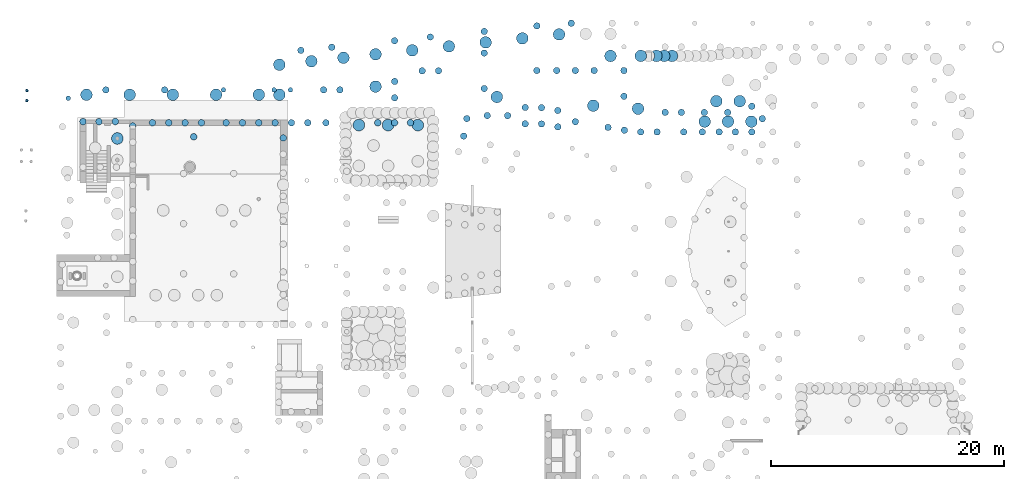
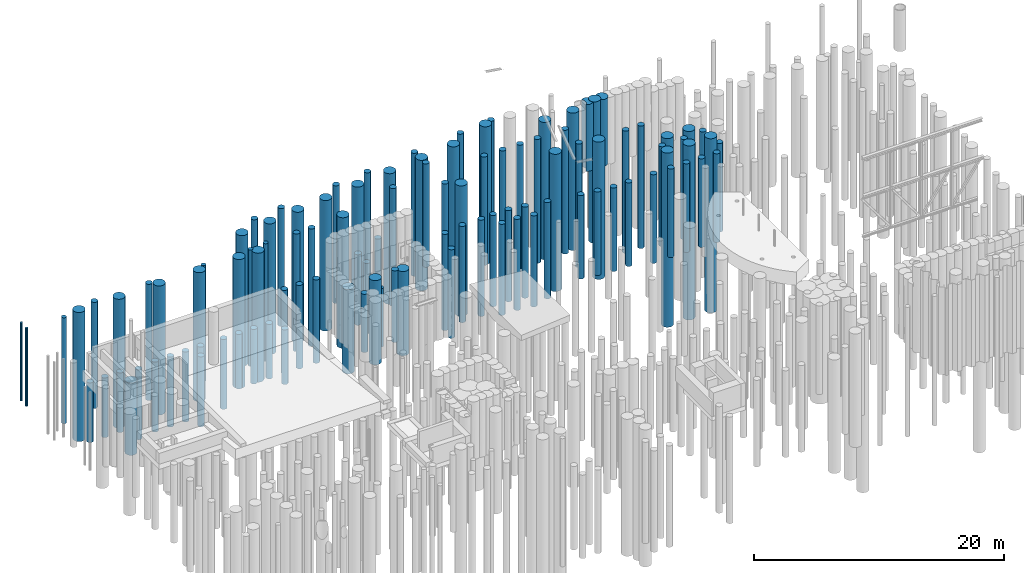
# One storey, part 4 of 104: 108 piles.
"""IFC2X3 building model written with IfcOpenShell, lengths in millimetres."""

from ifc_helpers import new_model, entity, si_unit, converted_unit, derived_unit, direction, frame, frame_2d, origin, origin_2d_with_axis, place, context, subcontext, project, spatial, circle_curve, parameter, trimmed, segment, composite_curve, circle, outline, extrude, source, transform, mapped, material, element, save


model = new_model("IFC2X3")

# Units and contexts
model_context = context("Model", 3, precision=0.01, world=origin(), true_north=direction((6.12303176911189e-17, 1.0)))
body_context = subcontext(model_context, "Body", "Model", "MODEL_VIEW")
ifc_project = project(units=[si_unit("LENGTHUNIT", "METRE", prefix="MILLI"), si_unit("AREAUNIT", "SQUARE_METRE", prefix="MILLI"), si_unit("VOLUMEUNIT", "CUBIC_METRE"), converted_unit("PLANEANGLEUNIT", "DEGREE", entity("IfcRatioMeasure", 0.0174532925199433), si_unit("PLANEANGLEUNIT", "RADIAN"), dimensions=[0, 0, 0, 0, 0, 0, 0]), si_unit("MASSUNIT", "GRAM", prefix="KILO"), derived_unit("MASSDENSITYUNIT", [(si_unit("MASSUNIT", "GRAM", prefix="KILO"), 1), (si_unit("LENGTHUNIT", "METRE"), -3)]), derived_unit("MOMENTOFINERTIAUNIT", [(si_unit("LENGTHUNIT", "METRE"), 4)]), si_unit("TIMEUNIT", "SECOND"), si_unit("FREQUENCYUNIT", "HERTZ"), si_unit("THERMODYNAMICTEMPERATUREUNIT", "DEGREE_CELSIUS"), derived_unit("THERMALTRANSMITTANCEUNIT", [(si_unit("MASSUNIT", "GRAM", prefix="KILO"), 1), (si_unit("THERMODYNAMICTEMPERATUREUNIT", "KELVIN"), -1), (si_unit("TIMEUNIT", "SECOND"), -3)]), derived_unit("VOLUMETRICFLOWRATEUNIT", [(si_unit("LENGTHUNIT", "METRE"), 3), (si_unit("TIMEUNIT", "SECOND"), -1)]), si_unit("ELECTRICCURRENTUNIT", "AMPERE"), si_unit("ELECTRICVOLTAGEUNIT", "VOLT"), si_unit("POWERUNIT", "WATT"), si_unit("FORCEUNIT", "NEWTON", prefix="KILO"), si_unit("ILLUMINANCEUNIT", "LUX"), si_unit("LUMINOUSFLUXUNIT", "LUMEN"), si_unit("LUMINOUSINTENSITYUNIT", "CANDELA"), derived_unit("USERDEFINED", [(si_unit("MASSUNIT", "GRAM", prefix="KILO"), -1), (si_unit("LENGTHUNIT", "METRE"), -2), (si_unit("TIMEUNIT", "SECOND"), 3), (si_unit("LUMINOUSFLUXUNIT", "LUMEN"), 1)]), derived_unit("LINEARVELOCITYUNIT", [(si_unit("LENGTHUNIT", "METRE"), 1), (si_unit("TIMEUNIT", "SECOND"), -1)]), si_unit("PRESSUREUNIT", "PASCAL"), derived_unit("USERDEFINED", [(si_unit("LENGTHUNIT", "METRE"), -2), (si_unit("MASSUNIT", "GRAM", prefix="KILO"), 1), (si_unit("TIMEUNIT", "SECOND"), -2)]), derived_unit("LINEARFORCEUNIT", [(si_unit("MASSUNIT", "GRAM", prefix="KILO"), 1), (si_unit("LENGTHUNIT", "METRE"), 1), (si_unit("TIMEUNIT", "SECOND"), -2), (si_unit("LENGTHUNIT", "METRE"), -1)]), derived_unit("PLANARFORCEUNIT", [(si_unit("MASSUNIT", "GRAM", prefix="KILO"), 1), (si_unit("LENGTHUNIT", "METRE"), 1), (si_unit("TIMEUNIT", "SECOND"), -2), (si_unit("LENGTHUNIT", "METRE"), -2)])], contexts=[model_context])

# Site, building, storey
site_placement = place(None, origin())
site = spatial("IfcSite", under=ifc_project, at=site_placement, Name="Theater aan de Parade", CompositionType="ELEMENT")
building_placement = place(site_placement, origin())
building = spatial("IfcBuilding", under=site, at=building_placement, Name="Theater aan de Parade", CompositionType="ELEMENT")
storey_placement = place(building_placement, frame((0.0, 0.0, -5520.0)))
storey = spatial("IfcBuildingStorey", under=building, at=storey_placement, Name="-2 kelder", CompositionType="ELEMENT", Elevation=-5520.0)

# Piles
ifc_material_1 = material(Name="<Unnamed>")
shared_shape_1 = source(origin(), body_context, "Body", "SweptSolid", [
    extrude(circle(Radius=200.0, at=frame_2d((1.69197988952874e-14, -3.02923644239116e-13), x_axis=(1.0, 0.0))), frame((0.0, 0.0, -11360.0)), (0.0, 0.0, 1.0), 10340.0),
])
pile_1_placement = place(storey_placement, frame((11000.0, 45550.0, 5520.0)))
element("IfcPile", 1, at=pile_1_placement, inside=storey, material=ifc_material_1, Name="17_PBT_SFO_paal_rond:Ø400 (betonpaal)_bestaand", ObjectType="17_PBT_SFO_paal_rond:Ø400 (betonpaal)_bestaand", PredefinedType="NOTDEFINED", context=body_context, shape_type="MappedRepresentation", body=[
    mapped(shared_shape_1, transform((0.0, 0.0, 0.0), scale=1.0)),
])
shared_shape_2 = source(origin(), body_context, "Body", "SweptSolid", [
    extrude(circle(Radius=280.0, at=frame_2d((-1.47690177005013e-29, -4.61316659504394e-13), x_axis=(1.0, 0.0))), frame((0.0, 0.0, -12360.0)), (0.0, 0.0, 1.0), 5819.99999999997),
])
for number, where in (
    (2, (12260.0, 43550.0, 5520.0)),
    (3, (13630.0, 43550.0, 5520.0)),
    (4, (15030.0, 43550.0, 5520.0)),
):
    element("IfcPile", number, at=place(storey_placement, frame(where)), inside=storey, material=ifc_material_1, Name="17_PBT_SFO_paal_rond:Ø560 (betonpaal)_bestaand", ObjectType="17_PBT_SFO_paal_rond:Ø560 (betonpaal)_bestaand", PredefinedType="NOTDEFINED", context=body_context, shape_type="MappedRepresentation", body=[
        mapped(shared_shape_2, transform((0.0, 0.0, 0.0), scale=1.0)),
    ])
shared_shape_3 = source(origin(), body_context, "Body", "SweptSolid", [
    extrude(circle(Radius=280.0, at=frame_2d((1.69197988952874e-14, -4.61316659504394e-13), x_axis=(1.0, 0.0))), frame((0.0, 0.0, -13360.0)), (0.0, 0.0, 1.0), 6819.99999999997),
])
for number, where in (
    (5, (16525.0, 43180.0, 5520.0)),
    (6, (18205.0, 43450.0, 5520.0)),
    (7, (19605.0, 43450.0, 5520.0)),
    (8, (21005.0, 43450.0, 5520.0)),
    (9, (22405.0, 43450.0, 5520.0)),
    (10, (24525.0, 43450.0, 5520.0)),
    (11, (21745.0, 42250.0, 5520.0)),
):
    element("IfcPile", number, at=place(storey_placement, frame(where)), inside=storey, material=ifc_material_1, Name="17_PBT_SFO_paal_rond:Ø560 (betonpaal)_bestaand", ObjectType="17_PBT_SFO_paal_rond:Ø560 (betonpaal)_bestaand", PredefinedType="NOTDEFINED", context=body_context, shape_type="MappedRepresentation", body=[
        mapped(shared_shape_3, transform((0.0, 0.0, 0.0), scale=1.0)),
    ])
shared_shape_4 = source(origin(), body_context, "Body", "SweptSolid", [
    extrude(circle(Radius=280.0, at=frame_2d((1.69197988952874e-14, -4.61316659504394e-13), x_axis=(1.0, 0.0))), frame((0.0, 0.0, -11860.0)), (0.0, 0.0, 1.0), 8139.99999999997),
])
for number, where in (
    (12, (30125.0, 43450.0, 5520.0)),
    (13, (31525.0, 43450.0, 5520.0)),
    (14, (33075.0, 43450.0, 5520.0)),
    (15, (61450.0, 42660.0, 5520.0)),
    (16, (60050.0, 42660.0, 5520.0)),
    (17, (58650.0, 42810.0, 5520.0)),
    (18, (57250.0, 43048.0, 5520.0)),
):
    element("IfcPile", number, at=place(storey_placement, frame(where)), inside=storey, material=ifc_material_1, Name="17_PBT_SFO_paal_rond:Ø560 (betonpaal)_bestaand", ObjectType="17_PBT_SFO_paal_rond:Ø560 (betonpaal)_bestaand", PredefinedType="NOTDEFINED", context=body_context, shape_type="MappedRepresentation", body=[
        mapped(shared_shape_4, transform((0.0, 0.0, 0.0), scale=1.0)),
    ])
shared_shape_5 = source(origin(), body_context, "Body", "SweptSolid", [
    extrude(circle(Radius=280.0, at=frame_2d((1.69197988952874e-14, -4.61316659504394e-13), x_axis=(1.0, 0.0))), frame((0.0, 0.0, -11860.0)), (0.0, 0.0, 1.0), 5319.99999999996),
])
for number, where in (
    (19, (25925.0, 43450.0, 5520.0)),
    (20, (27325.0, 43450.0, 5520.0)),
    (21, (28725.0, 43450.0, 5520.0)),
    (22, (29425.0, 42150.0, 5520.0)),
):
    element("IfcPile", number, at=place(storey_placement, frame(where)), inside=storey, material=ifc_material_1, Name="17_PBT_SFO_paal_rond:Ø560 (betonpaal)_bestaand", ObjectType="17_PBT_SFO_paal_rond:Ø560 (betonpaal)_bestaand", PredefinedType="NOTDEFINED", context=body_context, shape_type="MappedRepresentation", body=[
        mapped(shared_shape_5, transform((0.0, 0.0, 0.0), scale=1.0)),
    ])
shared_shape_6 = source(origin(), body_context, "Body", "SweptSolid", [
    extrude(circle(Radius=280.0, at=frame_2d((1.69197988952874e-14, -4.61316659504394e-13), x_axis=(1.0, 0.0))), frame((0.0, 0.0, -12360.0)), (0.0, 0.0, 1.0), 8639.99999999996),
])
for number, where in (
    (23, (69570.0, 42660.0, 5520.0)),
    (24, (70470.0, 43800.0, 5520.0)),
    (25, (68170.0, 42660.0, 5520.0)),
    (26, (66770.0, 42660.0, 5520.0)),
    (27, (65330.0, 42660.0, 5520.0)),
    (28, (63730.0, 42660.0, 5520.0)),
):
    element("IfcPile", number, at=place(storey_placement, frame(where)), inside=storey, material=ifc_material_1, Name="17_PBT_SFO_paal_rond:Ø560 (betonpaal)_bestaand", ObjectType="17_PBT_SFO_paal_rond:Ø560 (betonpaal)_bestaand", PredefinedType="NOTDEFINED", context=body_context, shape_type="MappedRepresentation", body=[
        mapped(shared_shape_6, transform((0.0, 0.0, 0.0), scale=1.0)),
    ])
shared_shape_7 = source(origin(), body_context, "Body", "SweptSolid", [
    extrude(circle(Radius=280.0, at=frame_2d((1.69197988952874e-14, -4.61316659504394e-13), x_axis=(1.0, 0.0))), frame((0.0, 0.0, -11360.0)), (0.0, 0.0, 1.0), 10340.0),
])
pile_2_placement = place(storey_placement, frame((14220.0, 46265.0, 5520.0)))
element("IfcPile", 29, at=pile_2_placement, inside=storey, material=ifc_material_1, Name="17_PBT_SFO_paal_rond:Ø560 (betonpaal)_bestaand", ObjectType="17_PBT_SFO_paal_rond:Ø560 (betonpaal)_bestaand", PredefinedType="NOTDEFINED", context=body_context, shape_type="MappedRepresentation", body=[
    mapped(shared_shape_7, transform((0.0, 0.0, 0.0), scale=1.0)),
])
shared_shape_8 = source(origin(), body_context, "Body", "SweptSolid", [
    extrude(circle(Radius=280.0, at=frame_2d((1.69197988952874e-14, -4.61316659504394e-13), x_axis=(1.0, 0.0))), frame((0.0, 0.0, -12360.0)), (0.0, 0.0, 1.0), 11340.0),
])
pile_3_placement = place(storey_placement, frame((19255.0, 46265.0, 5520.0)))
element("IfcPile", 30, at=pile_3_placement, inside=storey, material=ifc_material_1, Name="17_PBT_SFO_paal_rond:Ø560 (betonpaal)_bestaand", ObjectType="17_PBT_SFO_paal_rond:Ø560 (betonpaal)_bestaand", PredefinedType="NOTDEFINED", context=body_context, shape_type="MappedRepresentation", body=[
    mapped(shared_shape_8, transform((0.0, 0.0, 0.0), scale=1.0)),
])
shared_shape_9 = source(origin(), body_context, "Body", "SweptSolid", [
    extrude(circle(Radius=200.0, at=frame_2d((1.69197988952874e-14, -3.02923644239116e-13), x_axis=(1.0, 0.0))), frame((0.0, 0.0, -12360.0)), (0.0, 0.0, 1.0), 11470.0),
])
pile_4_placement = place(storey_placement, frame((30035.0, 46265.0, 5520.0)))
element("IfcPile", 31, at=pile_4_placement, inside=storey, material=ifc_material_1, Name="17_PBT_SFO_paal_rond:Ø400 (betonpaal)_bestaand", ObjectType="17_PBT_SFO_paal_rond:Ø400 (betonpaal)_bestaand", PredefinedType="NOTDEFINED", context=body_context, shape_type="MappedRepresentation", body=[
    mapped(shared_shape_9, transform((0.0, 0.0, 0.0), scale=1.0)),
])
shared_shape_10 = source(origin(), body_context, "Body", "SweptSolid", [
    extrude(circle(Radius=200.0, at=frame_2d((1.69197988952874e-14, -3.02923644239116e-13), x_axis=(1.0, 0.0))), frame((0.0, 0.0, -12360.0)), (0.0, 0.0, 1.0), 11340.0),
])
for number, where in (
    (32, (24295.0, 46265.0, 5520.0)),
    (33, (28635.0, 46265.0, 5520.0)),
):
    element("IfcPile", number, at=place(storey_placement, frame(where)), inside=storey, material=ifc_material_1, Name="17_PBT_SFO_paal_rond:Ø400 (betonpaal)_bestaand", ObjectType="17_PBT_SFO_paal_rond:Ø400 (betonpaal)_bestaand", PredefinedType="NOTDEFINED", context=body_context, shape_type="MappedRepresentation", body=[
        mapped(shared_shape_10, transform((0.0, 0.0, 0.0), scale=1.0)),
    ])
shared_shape_11 = source(origin(), body_context, "Body", "SweptSolid", [
    extrude(circle(Radius=280.0, at=frame_2d((1.69197988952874e-14, -4.61316659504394e-13), x_axis=(1.0, 0.0))), frame((0.0, 0.0, -12360.0)), (0.0, 0.0, 1.0), 11470.0),
])
for number, where in (
    (34, (32875.0, 46265.0, 5520.0)),
    (35, (34275.0, 46265.0, 5520.0)),
    (36, (42725.0, 47900.0, 5520.0)),
):
    element("IfcPile", number, at=place(storey_placement, frame(where)), inside=storey, material=ifc_material_1, Name="17_PBT_SFO_paal_rond:Ø560 (betonpaal)_bestaand", ObjectType="17_PBT_SFO_paal_rond:Ø560 (betonpaal)_bestaand", PredefinedType="NOTDEFINED", context=body_context, shape_type="MappedRepresentation", body=[
        mapped(shared_shape_11, transform((0.0, 0.0, 0.0), scale=1.0)),
    ])
shared_shape_12 = source(origin(), body_context, "Body", "SweptSolid", [
    extrude(circle(Radius=280.0, at=frame_2d((1.69197988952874e-14, -4.61316659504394e-13), x_axis=(1.0, 0.0))), frame((0.0, 0.0, -12360.0)), (0.0, 0.0, 1.0), 6879.99999999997),
])
for number, where in (
    (37, (38965.0, 45590.0, 5520.0)),
    (38, (38965.0, 46990.0, 5520.0)),
):
    element("IfcPile", number, at=place(storey_placement, frame(where)), inside=storey, material=ifc_material_1, Name="17_PBT_SFO_paal_rond:Ø560 (betonpaal)_bestaand", ObjectType="17_PBT_SFO_paal_rond:Ø560 (betonpaal)_bestaand", PredefinedType="NOTDEFINED", context=body_context, shape_type="MappedRepresentation", body=[
        mapped(shared_shape_12, transform((0.0, 0.0, 0.0), scale=1.0)),
    ])
shared_shape_13 = source(origin(), body_context, "Body", "SweptSolid", [
    extrude(circle(Radius=280.0, at=frame_2d((-1.69197988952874e-14, -5.23489148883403e-13), x_axis=(1.0, 0.0))), frame((0.0, 0.0, -12360.0)), (0.0, 0.0, 1.0), 5679.99999999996),
])
for number, where in (
    (39, (38965.0, 43450.0, 5520.0)),
    (40, (37525.0, 43450.0, 5520.0)),
):
    element("IfcPile", number, at=place(storey_placement, frame(where)), inside=storey, material=ifc_material_1, Name="17_PBT_SFO_paal_rond:Ø560 (betonpaal)_bestaand", ObjectType="17_PBT_SFO_paal_rond:Ø560 (betonpaal)_bestaand", PredefinedType="NOTDEFINED", context=body_context, shape_type="MappedRepresentation", body=[
        mapped(shared_shape_13, transform((0.0, 0.0, 0.0), scale=1.0)),
    ])
shared_shape_14 = source(origin(), body_context, "Body", "SweptSolid", [
    extrude(circle(Radius=280.0, at=frame_2d((1.69197988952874e-14, -4.61316659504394e-13), x_axis=(1.0, 0.0))), frame((0.0, 0.0, -12360.0)), (0.0, 0.0, 1.0), 6979.99999999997),
])
pile_5_placement = place(storey_placement, frame((40325.0, 43450.0, 5520.0)))
element("IfcPile", 41, at=pile_5_placement, inside=storey, material=ifc_material_1, Name="17_PBT_SFO_paal_rond:Ø560 (betonpaal)_bestaand", ObjectType="17_PBT_SFO_paal_rond:Ø560 (betonpaal)_bestaand", PredefinedType="NOTDEFINED", context=body_context, shape_type="MappedRepresentation", body=[
    mapped(shared_shape_14, transform((0.0, 0.0, 0.0), scale=1.0)),
])
shared_shape_15 = source(origin(), body_context, "Body", "SweptSolid", [
    extrude(circle(Radius=280.0, at=frame_2d((1.69197988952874e-14, -4.61316659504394e-13), x_axis=(1.0, 0.0))), frame((0.0, 0.0, -12860.0)), (0.0, 0.0, 1.0), 8639.99999999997),
])
pile_6_placement = place(storey_placement, frame((44880.0, 42307.0, 5520.0)))
element("IfcPile", 42, at=pile_6_placement, inside=storey, material=ifc_material_1, Name="17_PBT_SFO_paal_rond:Ø560 (betonpaal)_bestaand", ObjectType="17_PBT_SFO_paal_rond:Ø560 (betonpaal)_bestaand", PredefinedType="NOTDEFINED", context=body_context, shape_type="MappedRepresentation", body=[
    mapped(shared_shape_15, transform((0.0, 0.0, 0.0), scale=1.0)),
])
shared_shape_16 = source(origin(), body_context, "Body", "SweptSolid", [
    extrude(circle(Radius=280.0, at=frame_2d((1.69197988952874e-14, -4.61316659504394e-13), x_axis=(1.0, 0.0))), frame((0.0, 0.0, -12360.0)), (0.0, 0.0, 1.0), 11490.0),
])
for number, where in (
    (43, (30935.0, 49647.3468664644, 5520.0)),
    (44, (33575.0, 49921.4356910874, 5520.0)),
    (45, (38965.0, 50476.8808470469, 5520.0)),
    (46, (42025.0, 50798.72757293, 5520.0)),
):
    element("IfcPile", number, at=place(storey_placement, frame(where)), inside=storey, material=ifc_material_1, Name="17_PBT_SFO_paal_rond:Ø560 (betonpaal)_bestaand", ObjectType="17_PBT_SFO_paal_rond:Ø560 (betonpaal)_bestaand", PredefinedType="NOTDEFINED", context=body_context, shape_type="MappedRepresentation", body=[
        mapped(shared_shape_16, transform((0.0, 0.0, 0.0), scale=1.0)),
    ])
shared_shape_17 = source(origin(), body_context, "Body", "SweptSolid", [
    extrude(circle(Radius=280.0, at=frame_2d((1.69197988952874e-14, -4.61316659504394e-13), x_axis=(1.0, 0.0))), frame((0.0, 0.0, -12860.0)), (0.0, 0.0, 1.0), 11990.0),
])
for number, where in (
    (47, (46640.0, 51277.8639083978, 5520.0)),
    (48, (51155.0, 51746.6180914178, 5520.0)),
):
    element("IfcPile", number, at=place(storey_placement, frame(where)), inside=storey, material=ifc_material_1, Name="17_PBT_SFO_paal_rond:Ø560 (betonpaal)_bestaand", ObjectType="17_PBT_SFO_paal_rond:Ø560 (betonpaal)_bestaand", PredefinedType="NOTDEFINED", context=body_context, shape_type="MappedRepresentation", body=[
        mapped(shared_shape_17, transform((0.0, 0.0, 0.0), scale=1.0)),
    ])
shared_shape_18 = source(origin(), body_context, "Body", "SweptSolid", [
    extrude(circle(Radius=280.0, at=frame_2d((1.69197988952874e-14, -4.61316659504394e-13), x_axis=(1.0, 0.0))), frame((0.0, 0.0, -12860.0)), (0.0, 0.0, 1.0), 12080.0),
])
for number, where in (
    (49, (54105.0, 51975.0, 5520.0)),
    (50, (54455.0, 47925.0, 5520.0)),
    (51, (56055.0, 47925.0, 5520.0)),
    (52, (58615.0, 47925.0, 5520.0)),
    (53, (58615.0, 45714.0, 5520.0)),
):
    element("IfcPile", number, at=place(storey_placement, frame(where)), inside=storey, material=ifc_material_1, Name="17_PBT_SFO_paal_rond:Ø560 (betonpaal)_bestaand", ObjectType="17_PBT_SFO_paal_rond:Ø560 (betonpaal)_bestaand", PredefinedType="NOTDEFINED", context=body_context, shape_type="MappedRepresentation", body=[
        mapped(shared_shape_18, transform((0.0, 0.0, 0.0), scale=1.0)),
    ])
shared_shape_19 = source(origin(), body_context, "Body", "SweptSolid", [
    extrude(circle(Radius=280.0, at=frame_2d((1.69197988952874e-14, -4.61316659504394e-13), x_axis=(1.0, 0.0))), frame((0.0, 0.0, -12360.0)), (0.0, 0.0, 1.0), 7029.99999999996),
])
pile_7_placement = place(storey_placement, frame((41325.0, 47900.0, 5520.0)))
element("IfcPile", 54, at=pile_7_placement, inside=storey, material=ifc_material_1, Name="17_PBT_SFO_paal_rond:Ø560 (betonpaal)_bestaand", ObjectType="17_PBT_SFO_paal_rond:Ø560 (betonpaal)_bestaand", PredefinedType="NOTDEFINED", context=body_context, shape_type="MappedRepresentation", body=[
    mapped(shared_shape_19, transform((0.0, 0.0, 0.0), scale=1.0)),
])
shared_shape_20 = source(origin(), body_context, "Body", "SweptSolid", [
    extrude(circle(Radius=280.0, at=frame_2d((1.69197988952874e-14, -4.61316659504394e-13), x_axis=(1.0, 0.0))), frame((0.0, 0.0, -10860.0)), (0.0, 0.0, 1.0), 10080.0),
])
pile_8_placement = place(storey_placement, frame((46640.0, 49420.0, 5520.0)))
element("IfcPile", 55, at=pile_8_placement, inside=storey, material=ifc_material_1, Name="17_PBT_SFO_paal_rond:Ø560 (betonpaal)_bestaand", ObjectType="17_PBT_SFO_paal_rond:Ø560 (betonpaal)_bestaand", PredefinedType="NOTDEFINED", context=body_context, shape_type="MappedRepresentation", body=[
    mapped(shared_shape_20, transform((0.0, 0.0, 0.0), scale=1.0)),
])
shared_shape_21 = source(origin(), body_context, "Body", "SweptSolid", [
    extrude(circle(Radius=280.0, at=frame_2d((1.69197988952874e-14, -4.61316659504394e-13), x_axis=(1.0, 0.0))), frame((0.0, 0.0, -10860.0)), (0.0, 0.0, 1.0), 9969.99999999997),
])
pile_9_placement = place(storey_placement, frame((46640.0, 46380.0, 5520.0)))
element("IfcPile", 56, at=pile_9_placement, inside=storey, material=ifc_material_1, Name="17_PBT_SFO_paal_rond:Ø560 (betonpaal)_bestaand", ObjectType="17_PBT_SFO_paal_rond:Ø560 (betonpaal)_bestaand", PredefinedType="NOTDEFINED", context=body_context, shape_type="MappedRepresentation", body=[
    mapped(shared_shape_21, transform((0.0, 0.0, 0.0), scale=1.0)),
])
shared_shape_22 = source(origin(), body_context, "Body", "SweptSolid", [
    extrude(circle(Radius=280.0, at=frame_2d((1.69197988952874e-14, -4.61316659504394e-13), x_axis=(1.0, 0.0))), frame((0.0, 0.0, -11360.0)), (0.0, 0.0, 1.0), 10580.0),
])
for number, where in (
    (57, (51155.0, 47925.0, 5520.0)),
    (58, (52855.0, 47925.0, 5520.0)),
):
    element("IfcPile", number, at=place(storey_placement, frame(where)), inside=storey, material=ifc_material_1, Name="17_PBT_SFO_paal_rond:Ø560 (betonpaal)_bestaand", ObjectType="17_PBT_SFO_paal_rond:Ø560 (betonpaal)_bestaand", PredefinedType="NOTDEFINED", context=body_context, shape_type="MappedRepresentation", body=[
        mapped(shared_shape_22, transform((0.0, 0.0, 0.0), scale=1.0)),
    ])
shared_shape_23 = source(origin(), body_context, "Body", "SweptSolid", [
    extrude(circle(Radius=280.0, at=frame_2d((1.69197988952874e-14, -4.61316659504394e-13), x_axis=(1.0, 0.0))), frame((0.0, 0.0, -12360.0)), (0.0, 0.0, 1.0), 9739.99999999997),
])
for number, where in (
    (59, (67500.0, 44335.0, 5520.0)),
    (60, (65500.0, 44335.0, 5520.0)),
):
    element("IfcPile", number, at=place(storey_placement, frame(where)), inside=storey, material=ifc_material_1, Name="17_PBT_SFO_paal_rond:Ø560 (betonpaal)_bestaand", ObjectType="17_PBT_SFO_paal_rond:Ø560 (betonpaal)_bestaand", PredefinedType="NOTDEFINED", context=body_context, shape_type="MappedRepresentation", body=[
        mapped(shared_shape_23, transform((0.0, 0.0, 0.0), scale=1.0)),
    ])
shared_shape_24 = source(origin(), body_context, "Body", "SweptSolid", [
    extrude(circle(Radius=280.0, at=frame_2d((1.69197988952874e-14, -4.61316659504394e-13), x_axis=(1.0, 0.0))), frame((0.0, 0.0, -11860.0)), (0.0, 0.0, 1.0), 11940.0),
])
for number, where in (
    (61, (63540.0, 44335.0, 5520.0)),
    (62, (62140.0, 44335.0, 5520.0)),
):
    element("IfcPile", number, at=place(storey_placement, frame(where)), inside=storey, material=ifc_material_1, Name="17_PBT_SFO_paal_rond:Ø560 (betonpaal)_bestaand", ObjectType="17_PBT_SFO_paal_rond:Ø560 (betonpaal)_bestaand", PredefinedType="NOTDEFINED", context=body_context, shape_type="MappedRepresentation", body=[
        mapped(shared_shape_24, transform((0.0, 0.0, 0.0), scale=1.0)),
    ])
shared_shape_25 = source(origin(), body_context, "Body", "SweptSolid", [
    extrude(circle(Radius=280.0, at=frame_2d((1.69197988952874e-14, -4.61316659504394e-13), x_axis=(1.0, 0.0))), frame((0.0, 0.0, -13110.0)), (0.0, 0.0, 1.0), 8889.99999999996),
])
for number, where in (
    (63, (51550.0, 44746.0, 5520.0)),
    (64, (50150.0, 44760.0, 5520.0)),
    (65, (51550.0, 43346.0, 5520.0)),
    (66, (50150.0, 43360.0, 5520.0)),
    (67, (52950.0, 44501.0, 5520.0)),
    (68, (52950.0, 43101.0, 5520.0)),
):
    element("IfcPile", number, at=place(storey_placement, frame(where)), inside=storey, material=ifc_material_1, Name="17_PBT_SFO_paal_rond:Ø560 (betonpaal)_bestaand", ObjectType="17_PBT_SFO_paal_rond:Ø560 (betonpaal)_bestaand", PredefinedType="NOTDEFINED", context=body_context, shape_type="MappedRepresentation", body=[
        mapped(shared_shape_25, transform((0.0, 0.0, 0.0), scale=1.0)),
    ])
shared_shape_26 = source(origin(), body_context, "Body", "SweptSolid", [
    extrude(circle(Radius=280.0, at=frame_2d((1.69197988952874e-14, -4.61316659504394e-13), x_axis=(1.0, 0.0))), frame((0.0, 0.0, -13110.0)), (0.0, 0.0, 1.0), 9389.99999999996),
])
for number, where in (
    (69, (54450.0, 43538.0, 5520.0)),
    (70, (48650.0, 44060.0, 5520.0)),
    (71, (46900.0, 44060.0, 5520.0)),
    (72, (45150.0, 43805.0, 5520.0)),
):
    element("IfcPile", number, at=place(storey_placement, frame(where)), inside=storey, material=ifc_material_1, Name="17_PBT_SFO_paal_rond:Ø560 (betonpaal)_bestaand", ObjectType="17_PBT_SFO_paal_rond:Ø560 (betonpaal)_bestaand", PredefinedType="NOTDEFINED", context=body_context, shape_type="MappedRepresentation", body=[
        mapped(shared_shape_26, transform((0.0, 0.0, 0.0), scale=1.0)),
    ])
shared_shape_27 = source(origin(), body_context, "Body", "SweptSolid", [
    extrude(circle(Radius=280.0, at=frame_2d((1.69197988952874e-14, -4.61316659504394e-13), x_axis=(1.0, 0.0))), frame((0.0, 0.0, -12360.0)), (0.0, 0.0, 1.0), 9439.99999999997),
])
pile_10_placement = place(storey_placement, frame((69570.0, 44860.0, 5520.0)))
element("IfcPile", 73, at=pile_10_placement, inside=storey, material=ifc_material_1, Name="17_PBT_SFO_paal_rond:Ø560 (betonpaal)_bestaand", ObjectType="17_PBT_SFO_paal_rond:Ø560 (betonpaal)_bestaand", PredefinedType="NOTDEFINED", context=body_context, shape_type="MappedRepresentation", body=[
    mapped(shared_shape_27, transform((0.0, 0.0, 0.0), scale=1.0)),
])
ifc_material_2 = material(Name="00_PBT_MAT_grout")
shared_shape_28 = source(origin(), body_context, "Body", "SweptSolid", [
    extrude(circle(Radius=500.0, at=frame_2d((3.3839597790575e-14, -7.7318529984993e-13), x_axis=(1.0, 0.0))), frame((0.0, 0.0, -13610.0)), (0.0, 0.0, 1.0), 7049.99999999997),
])
pile_11_placement = place(storey_placement, frame((15203.8570025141, 42105.1913491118, 5520.0)))
element("IfcPile", 74, at=pile_11_placement, inside=storey, material=ifc_material_2, Name="17_PBT_SFO_paal_rond:Ø1000 (jetgroutpaal) binnen kelder", ObjectType="17_PBT_SFO_paal_rond:Ø1000 (jetgroutpaal) binnen kelder", PredefinedType="NOTDEFINED", context=body_context, shape_type="MappedRepresentation", body=[
    mapped(shared_shape_28, transform((0.0, 0.0, 0.0), scale=1.0)),
])
shared_shape_29 = source(origin(), body_context, "Body", "SweptSolid", [
    extrude(circle(Radius=500.0, at=frame_2d((3.3839597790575e-14, -7.7318529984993e-13), x_axis=(1.0, 0.0))), frame((0.0, 0.0, -13610.0)), (0.0, 0.0, 1.0), 12590.0),
])
for number, where in (
    (75, (12559.3126328, 45848.0, 5520.0)),
    (76, (27325.0, 45848.0, 5520.0)),
    (77, (16259.3126328, 45848.0, 5520.0)),
    (78, (19959.3126328, 45848.0, 5520.0)),
    (79, (23659.3126328, 45848.0, 5520.0)),
    (80, (29088.8975663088, 45848.0, 5520.0)),
):
    element("IfcPile", number, at=place(storey_placement, frame(where)), inside=storey, material=ifc_material_2, Name="17_PBT_SFO_paal_rond:Ø1000 (jetgroutpaal) buiten kelder", ObjectType="17_PBT_SFO_paal_rond:Ø1000 (jetgroutpaal) buiten kelder", PredefinedType="NOTDEFINED", context=body_context, shape_type="MappedRepresentation", body=[
        mapped(shared_shape_29, transform((0.0, 0.0, 0.0), scale=1.0)),
    ])
shared_shape_30 = source(origin(), body_context, "Body", "SweptSolid", [
    extrude(circle(Radius=500.0, at=frame_2d((3.3839597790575e-14, -7.7318529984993e-13), x_axis=(1.0, 0.0))), frame((0.0, 0.0, -13610.0)), (0.0, 0.0, 1.0), 8229.99999999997),
])
for number, where in (
    (81, (38403.8581300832, 43250.0, 5520.0)),
    (82, (35903.8581300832, 43250.0, 5520.0)),
    (83, (40953.8581275, 43250.0, 5520.0)),
):
    element("IfcPile", number, at=place(storey_placement, frame(where)), inside=storey, material=ifc_material_2, Name="17_PBT_SFO_paal_rond:Ø1000 (jetgroutpaal) buiten kelder", ObjectType="17_PBT_SFO_paal_rond:Ø1000 (jetgroutpaal) buiten kelder", PredefinedType="NOTDEFINED", context=body_context, shape_type="MappedRepresentation", body=[
        mapped(shared_shape_30, transform((0.0, 0.0, 0.0), scale=1.0)),
    ])
shared_shape_31 = source(origin(), body_context, "Body", "SweptSolid", [
    extrude(circle(Radius=500.0, at=frame_2d((3.3839597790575e-14, -7.7318529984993e-13), x_axis=(1.0, 0.0))), frame((0.0, 0.0, -19610.0)), (0.0, 0.0, 1.0), 16990.0),
])
for number, where in (
    (84, (67531.256100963, 43550.0, 5520.0)),
    (85, (66531.256100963, 45300.0, 5520.0)),
    (86, (68531.256100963, 45300.0, 5520.0)),
    (87, (65531.256100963, 43550.0, 5520.0)),
    (88, (69531.256100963, 43550.0, 5520.0)),
):
    element("IfcPile", number, at=place(storey_placement, frame(where)), inside=storey, material=ifc_material_2, Name="17_PBT_SFO_paal_rond:Ø1000 (jetgroutpaal) buiten kelder", ObjectType="17_PBT_SFO_paal_rond:Ø1000 (jetgroutpaal) buiten kelder", PredefinedType="NOTDEFINED", context=body_context, shape_type="MappedRepresentation", body=[
        mapped(shared_shape_31, transform((0.0, 0.0, 0.0), scale=1.0)),
    ])
shared_shape_32 = source(origin(), body_context, "Body", "SweptSolid", [
    extrude(circle(Radius=500.0, at=frame_2d((3.3839597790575e-14, -7.7318529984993e-13), x_axis=(1.0, 0.0))), frame((0.0, 0.0, -13610.0)), (0.0, 0.0, 1.0), 13390.0),
])
for number, where in (
    (89, (57462.031563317, 49176.5644848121, 5520.0)),
    (90, (60060.0, 49176.5644848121, 5520.0)),
):
    element("IfcPile", number, at=place(storey_placement, frame(where)), inside=storey, material=ifc_material_2, Name="17_PBT_SFO_paal_rond:Ø1000 (jetgroutpaal) buiten kelder", ObjectType="17_PBT_SFO_paal_rond:Ø1000 (jetgroutpaal) buiten kelder", PredefinedType="NOTDEFINED", context=body_context, shape_type="MappedRepresentation", body=[
        mapped(shared_shape_32, transform((0.0, 0.0, 0.0), scale=1.0)),
    ])
pile_12_placement = place(storey_placement, frame((53052.981802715, 51022.1210988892, 5520.0), z_axis=(0.0, 0.0, 1.0), x_axis=(0.994164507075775, 0.107874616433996, 0.0)))
element("IfcPile", 91, at=pile_12_placement, inside=storey, material=ifc_material_2, Name="17_PBT_SFO_paal_rond:Ø1000 (jetgroutpaal) buiten kelder", ObjectType="17_PBT_SFO_paal_rond:Ø1000 (jetgroutpaal) buiten kelder", PredefinedType="NOTDEFINED", context=body_context, shape_type="MappedRepresentation", body=[
    mapped(shared_shape_32, transform((0.0, 0.0, 0.0), scale=1.0)),
])
for number, where in (
    (92, (55985.2499183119, 44910.0, 5520.0)),
    (93, (59819.383973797, 44651.52654029, 5520.0)),
):
    element("IfcPile", number, at=place(storey_placement, frame(where)), inside=storey, material=ifc_material_2, Name="17_PBT_SFO_paal_rond:Ø1000 (jetgroutpaal) buiten kelder", ObjectType="17_PBT_SFO_paal_rond:Ø1000 (jetgroutpaal) buiten kelder", PredefinedType="NOTDEFINED", context=body_context, shape_type="MappedRepresentation", body=[
        mapped(shared_shape_32, transform((0.0, 0.0, 0.0), scale=1.0)),
    ])
shared_shape_33 = source(origin(), body_context, "Body", "SweptSolid", [
    extrude(circle(Radius=500.0, at=frame_2d((3.3839597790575e-14, -7.7318529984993e-13), x_axis=(1.0, 0.0))), frame((0.0, 0.0, -13610.0)), (0.0, 0.0, 1.0), 13790.0),
])
pile_13_placement = place(storey_placement, frame((62060.0, 49176.5644848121, 5520.0)))
element("IfcPile", 94, at=pile_13_placement, inside=storey, material=ifc_material_2, Name="17_PBT_SFO_paal_rond:Ø1000 (jetgroutpaal) buiten kelder", ObjectType="17_PBT_SFO_paal_rond:Ø1000 (jetgroutpaal) buiten kelder", PredefinedType="NOTDEFINED", context=body_context, shape_type="MappedRepresentation", body=[
    mapped(shared_shape_33, transform((0.0, 0.0, 0.0), scale=1.0)),
])
shared_shape_34 = source(origin(), body_context, "Body", "SweptSolid", [
    extrude(circle(Radius=500.0, at=frame_2d((3.3839597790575e-14, -7.7318529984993e-13), x_axis=(1.0, 0.0))), frame((0.0, 0.0, -13610.0)), (0.0, 0.0, 1.0), 12740.0),
])
pile_14_placement = place(storey_placement, frame((29088.8975663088, 48421.8307276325, 5520.0)))
element("IfcPile", 95, at=pile_14_placement, inside=storey, material=ifc_material_2, Name="17_PBT_SFO_paal_rond:Ø1000 (jetgroutpaal) buiten kelder", ObjectType="17_PBT_SFO_paal_rond:Ø1000 (jetgroutpaal) buiten kelder", PredefinedType="NOTDEFINED", context=body_context, shape_type="MappedRepresentation", body=[
    mapped(shared_shape_34, transform((0.0, 0.0, 0.0), scale=1.0)),
])
for number, where, z_axis, x_axis in (
    (96, (34580.6623033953, 49017.7301088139, 5520.0), (0.0, 0.0, 1.0), (0.994164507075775, 0.107874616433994, 0.0)),
    (97, (40473.4004659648, 49657.1382394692, 5520.0), (0.0, 0.0, 1.0), (0.994164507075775, 0.107874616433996, 0.0)),
):
    element("IfcPile", number, at=place(storey_placement, frame(where, z_axis=z_axis, x_axis=x_axis)), inside=storey, material=ifc_material_2, Name="17_PBT_SFO_paal_rond:Ø1000 (jetgroutpaal) buiten kelder", ObjectType="17_PBT_SFO_paal_rond:Ø1000 (jetgroutpaal) buiten kelder", PredefinedType="NOTDEFINED", context=body_context, shape_type="MappedRepresentation", body=[
        mapped(shared_shape_34, transform((0.0, 0.0, 0.0), scale=1.0)),
    ])
pile_15_placement = place(storey_placement, frame((37328.8581300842, 49315.9308276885, 5520.0)))
element("IfcPile", 98, at=pile_15_placement, inside=storey, material=ifc_material_2, Name="17_PBT_SFO_paal_rond:Ø1000 (jetgroutpaal) buiten kelder", ObjectType="17_PBT_SFO_paal_rond:Ø1000 (jetgroutpaal) buiten kelder", PredefinedType="NOTDEFINED", context=body_context, shape_type="MappedRepresentation", body=[
    mapped(shared_shape_34, transform((0.0, 0.0, 0.0), scale=1.0)),
])
pile_16_placement = place(storey_placement, frame((31834.779934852, 48719.7804182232, 5520.0), z_axis=(0.0, 0.0, 1.0), x_axis=(0.994164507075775, 0.107874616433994, 0.0)))
element("IfcPile", 99, at=pile_16_placement, inside=storey, material=ifc_material_2, Name="17_PBT_SFO_paal_rond:Ø1000 (jetgroutpaal) buiten kelder", ObjectType="17_PBT_SFO_paal_rond:Ø1000 (jetgroutpaal) buiten kelder", PredefinedType="NOTDEFINED", context=body_context, shape_type="MappedRepresentation", body=[
    mapped(shared_shape_34, transform((0.0, 0.0, 0.0), scale=1.0)),
])
pile_17_placement = place(storey_placement, frame((37328.8581300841, 46550.0, 5520.0)))
element("IfcPile", 100, at=pile_17_placement, inside=storey, material=ifc_material_2, Name="17_PBT_SFO_paal_rond:Ø1000 (jetgroutpaal) buiten kelder", ObjectType="17_PBT_SFO_paal_rond:Ø1000 (jetgroutpaal) buiten kelder", PredefinedType="NOTDEFINED", context=body_context, shape_type="MappedRepresentation", body=[
    mapped(shared_shape_34, transform((0.0, 0.0, 0.0), scale=1.0)),
])
for number, where, z_axis, x_axis in (
    (101, (43617.9428018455, 49998.34565125, 5520.0), (0.0, 0.0, 1.0), (0.994164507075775, 0.107874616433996, 0.0)),
    (102, (46762.4851377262, 50339.5530630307, 5520.0), (0.0, 0.0, 1.0), (0.994164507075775, 0.107874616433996, 0.0)),
    (103, (49907.0274736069, 50680.7604748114, 5520.0), (0.0, 0.0, 1.0), (0.994164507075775, 0.107874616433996, 0.0)),
):
    element("IfcPile", number, at=place(storey_placement, frame(where, z_axis=z_axis, x_axis=x_axis)), inside=storey, material=ifc_material_2, Name="17_PBT_SFO_paal_rond:Ø1000 (jetgroutpaal) buiten kelder", ObjectType="17_PBT_SFO_paal_rond:Ø1000 (jetgroutpaal) buiten kelder", PredefinedType="NOTDEFINED", context=body_context, shape_type="MappedRepresentation", body=[
        mapped(shared_shape_34, transform((0.0, 0.0, 0.0), scale=1.0)),
    ])
pile_18_placement = place(storey_placement, frame((47725.0, 45660.0, 5520.0)))
element("IfcPile", 104, at=pile_18_placement, inside=storey, material=ifc_material_2, Name="17_PBT_SFO_paal_rond:Ø1000 (jetgroutpaal) buiten kelder", ObjectType="17_PBT_SFO_paal_rond:Ø1000 (jetgroutpaal) buiten kelder", PredefinedType="NOTDEFINED", context=body_context, shape_type="MappedRepresentation", body=[
    mapped(shared_shape_34, transform((0.0, 0.0, 0.0), scale=1.0)),
])
shared_shape_35 = source(origin(), body_context, "Body", "SweptSolid", [
    extrude(circle(Radius=500.0, at=origin_2d_with_axis()), frame((62726.6666666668, 49176.5644848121, -6360.0)), (0.0, 0.0, 1.0), 6519.99999999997),
])
pile_19_placement = place(storey_placement, frame((0.0, 0.0, 5520.0)))
element("IfcPile", 105, at=pile_19_placement, inside=storey, material=ifc_material_2, Name="17_PBT_SFO_grondkering_rond:Ø1000 (grondkering)", ObjectType="17_PBT_SFO_grondkering_rond:Ø1000 (grondkering)", PredefinedType="NOTDEFINED", context=body_context, shape_type="MappedRepresentation", body=[
    mapped(shared_shape_35, transform((0.0, 0.0, 0.0), scale=1.0)),
])
shared_shape_36 = source(origin(), body_context, "Body", "SweptSolid", [
    extrude(outline(composite_curve([segment(trimmed(circle_curve(frame_2d((-222.222222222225, 248.451997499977), x_axis=(1.0, 0.0)), 500.0), [parameter(0.0)], [parameter(263.620629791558)], True, "PARAMETER"), True, "CONTINUOUS"), segment(trimmed(circle_curve(frame_2d((222.222222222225, -248.451997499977), x_axis=(-1.0, 0.0)), 500.0), [parameter(263.620629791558)], [parameter(0.0)], True, "PARAMETER"), False, "CONTINUOUS")], self_intersect=False)), frame((61060.0, 49176.5644848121, -6360.0), z_axis=(0.0, 0.0, 1.0), x_axis=(-0.666666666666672, -0.745355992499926, 0.0)), (0.0, 0.0, 1.0), 6519.99999999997),
])
pile_20_placement = place(storey_placement, frame((0.0, 0.0, 5520.0)))
element("IfcPile", 106, at=pile_20_placement, inside=storey, material=ifc_material_2, Name="17_PBT_SFO_grondkering_rond:Ø1000 (grondkering)", ObjectType="17_PBT_SFO_grondkering_rond:Ø1000 (grondkering)", PredefinedType="NOTDEFINED", context=body_context, shape_type="MappedRepresentation", body=[
    mapped(shared_shape_36, transform((0.0, 0.0, 0.0), scale=1.0)),
])
shared_shape_37 = source(origin(), body_context, "Body", "SweptSolid", [
    extrude(circle(Radius=109.5, at=frame_2d((-8.45989944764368e-15, -1.67822118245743e-13), x_axis=(1.0, 0.0))), frame((0.0, 0.0, -8360.0)), (0.0, 0.0, 1.0), 7619.99999999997),
])
for number, where in (
    (107, (7444.53922563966, 45347.2211507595, 5520.0)),
    (108, (7451.95678081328, 46197.188785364, 5520.0)),
):
    element("IfcPile", number, at=place(storey_placement, frame(where)), inside=storey, material=ifc_material_1, Name="17_PBT_SFO_paal_rond:Ø219-390 (Casing-draaipaal)_bestaand", ObjectType="17_PBT_SFO_paal_rond:Ø219-390 (Casing-draaipaal)_bestaand", PredefinedType="NOTDEFINED", context=body_context, shape_type="MappedRepresentation", body=[
        mapped(shared_shape_37, transform((0.0, 0.0, 0.0), scale=1.0)),
    ])

save(model, "model.ifc")
